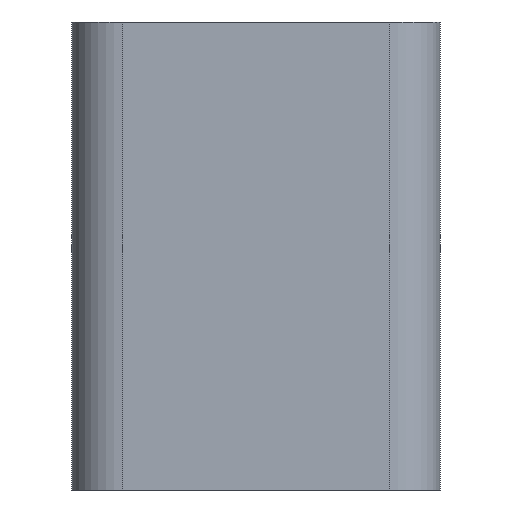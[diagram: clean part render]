
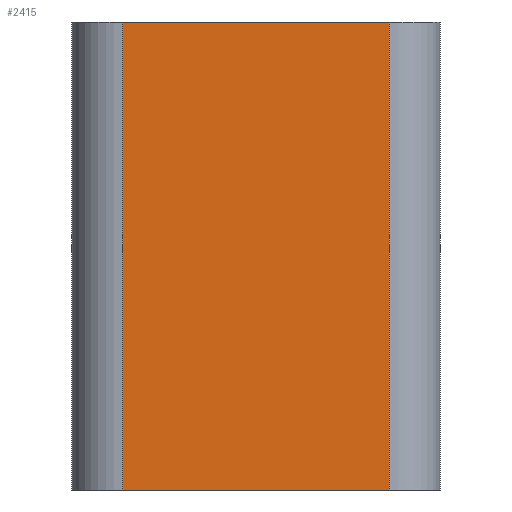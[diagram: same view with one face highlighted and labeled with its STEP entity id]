
A CAD part, front view. The second image highlights one B-rep face of the part: STEP entity #2415.
In plain terms, the highlighted planar face has unit normal (0, -1, 0).
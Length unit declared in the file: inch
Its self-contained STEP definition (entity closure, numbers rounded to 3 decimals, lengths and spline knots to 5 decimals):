
#2016=CARTESIAN_POINT('',(1.56575,-0.285,2.75));
#2017=VERTEX_POINT('',#2016);
#2025=CARTESIAN_POINT('',(1.56575,-0.285,-2.75));
#2026=VERTEX_POINT('',#2025);
#2027=CARTESIAN_POINT('',(1.56575,-0.285,-2.75));
#2028=DIRECTION('',(0.0,0.0,1.0));
#2029=VECTOR('',#2028,5.5);
#2030=LINE('',#2027,#2029);
#2031=EDGE_CURVE('',#2026,#2017,#2030,.T.);
#2090=CARTESIAN_POINT('',(-1.56575,-0.285,-2.75));
#2091=VERTEX_POINT('',#2090);
#2099=CARTESIAN_POINT('',(-1.56575,-0.285,2.75));
#2100=VERTEX_POINT('',#2099);
#2101=CARTESIAN_POINT('',(-1.56575,-0.285,-2.75));
#2102=DIRECTION('',(0.0,0.0,1.0));
#2103=VECTOR('',#2102,5.5);
#2104=LINE('',#2101,#2103);
#2105=EDGE_CURVE('',#2091,#2100,#2104,.T.);
#2383=CARTESIAN_POINT('',(-1.56575,-0.285,-2.75));
#2384=DIRECTION('',(1.0,0.0,0.0));
#2385=VECTOR('',#2384,3.1315);
#2386=LINE('',#2383,#2385);
#2387=EDGE_CURVE('',#2091,#2026,#2386,.T.);
#2399=CARTESIAN_POINT('',(1.56575,-0.285,0.0));
#2400=DIRECTION('',(0.0,-1.0,0.0));
#2401=DIRECTION('',(0.0,0.0,-1.0));
#2402=AXIS2_PLACEMENT_3D('',#2399,#2400,#2401);
#2403=PLANE('',#2402);
#2404=CARTESIAN_POINT('',(1.56575,-0.285,2.75));
#2405=DIRECTION('',(-1.0,0.0,0.0));
#2406=VECTOR('',#2405,3.1315);
#2407=LINE('',#2404,#2406);
#2408=EDGE_CURVE('',#2017,#2100,#2407,.T.);
#2409=ORIENTED_EDGE('',*,*,#2408,.T.);
#2410=ORIENTED_EDGE('',*,*,#2105,.F.);
#2411=ORIENTED_EDGE('',*,*,#2387,.T.);
#2412=ORIENTED_EDGE('',*,*,#2031,.T.);
#2413=EDGE_LOOP('',(#2409,#2410,#2411,#2412));
#2414=FACE_OUTER_BOUND('',#2413,.T.);
#2415=ADVANCED_FACE('',(#2414),#2403,.T.);
